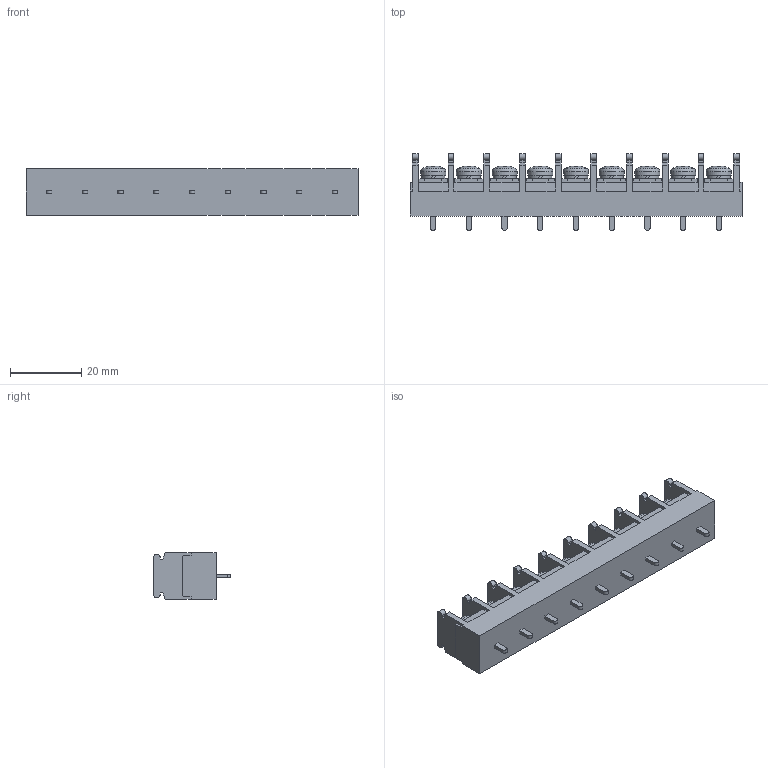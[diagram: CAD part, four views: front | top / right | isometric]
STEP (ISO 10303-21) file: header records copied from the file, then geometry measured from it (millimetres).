
FILE_DESCRIPTION(/* description */ ('Alibre Inc.'),/* implementation_level */ '2;1');
FILE_NAME(/* name */ 'export0',/* time_stamp */ '2015-10-17T19:43:46+09:00',/* author */ (''),/* organization */ (''),/* preprocessor_version */ 'ST-DEVELOPER v14',/* originating_system */ 'Alibre',/* authorisation */ '');
FILE_SCHEMA (('CONFIG_CONTROL_DESIGN'));
Length unit declared in the file: centimetre
Products named in the file (1): ID_1
Bounding box: 93 x 21.5 x 13 mm (x, y, z)
Volume: 14288.9 mm3; surface area: 8054.6 mm2
Topology: 1 solids, 17 shells, 935 faces, 2499 edges, 1663 vertices
Faces by surface type: plane 721, bspline 104, cylinder 56, cone 36, sphere 9, torus 9
Full cylindrical faces by diameter (mm): 6.5 x9, 7 x9
Entity records: 28507 total; most frequent: CARTESIAN_POINT 6320, ORIENTED_EDGE 4962, DIRECTION 3524, EDGE_CURVE 2481, VECTOR 1864, LINE 1864, VERTEX_POINT 1663, AXIS2_PLACEMENT_3D 1185
